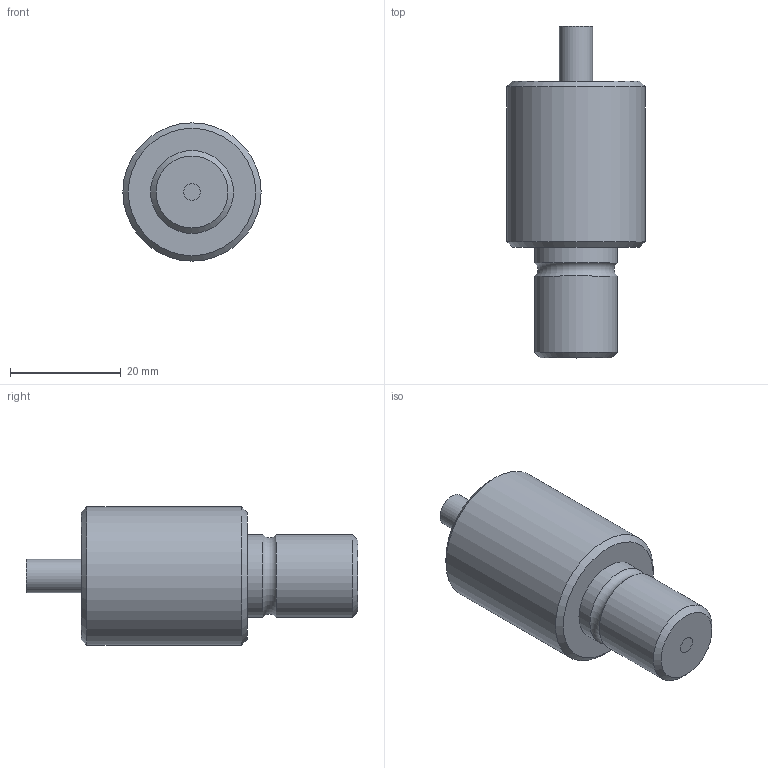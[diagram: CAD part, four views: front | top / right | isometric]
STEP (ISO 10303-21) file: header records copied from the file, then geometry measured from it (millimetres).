
FILE_DESCRIPTION(/* description */ (''),/* implementation_level */ '2;1');
FILE_NAME(/* name */ '//sv004/特品事業部/特品共通フォルダ/☆社外用データテスト/01_製品関連/0121_ライトガイド関連/3D図面/LGC1-3L 共通受光部.step',/* time_stamp */ '2022-11-01T10:28:16+09:00',/* author */ (''),/* organization */ (''),/* preprocessor_version */ 'ST-DEVELOPER v19',/* originating_system */ 'Autodesk Translation Framework v11.7.0.108',/* authorisation */ '');
FILE_SCHEMA (('AUTOMOTIVE_DESIGN { 1 0 10303 214 3 1 1 }'));
Length unit declared in the file: millimetre
Products named in the file (1): LGC1-3L 共通受光部
Bounding box: 25 x 60 x 25 mm (x, y, z)
Volume: 18398.4 mm3; surface area: 5529.9 mm2
Topology: 3 solids, 3 shells, 18 faces, 28 edges, 17 vertices
Faces by surface type: plane 7, cylinder 7, cone 3, torus 1
Full cylindrical faces by diameter (mm): 3 x3, 6 x1, 15 x2, 25 x1
Entity records: 449 total; most frequent: DIRECTION 84, CARTESIAN_POINT 64, ORIENTED_EDGE 56, AXIS2_PLACEMENT_3D 37, EDGE_CURVE 28, EDGE_LOOP 23, FACE_OUTER_BOUND 18, CIRCLE 18
